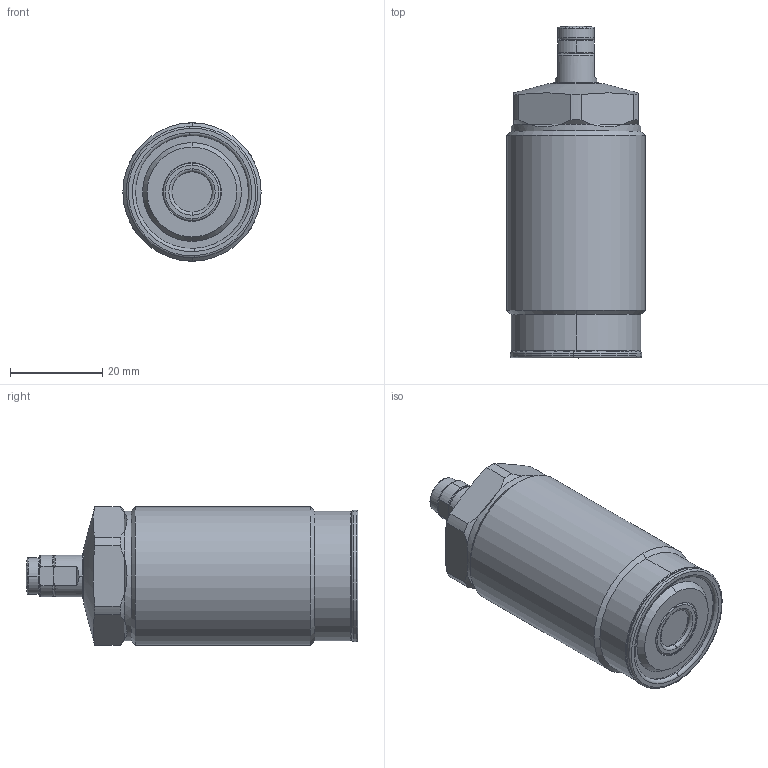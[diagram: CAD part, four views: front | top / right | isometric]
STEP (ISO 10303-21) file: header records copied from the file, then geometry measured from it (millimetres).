
FILE_DESCRIPTION(/* description */ (''),/* implementation_level */ '2;1');
FILE_NAME(/* name */ 'TNL30-M.stp',/* time_stamp */ '2025-01-09T10:26:32+08:00',/* author */ (''),/* organization */ (''),/* preprocessor_version */ 'ST-DEVELOPER v16.7',/* originating_system */ 'SIEMENS PLM Software NX 12.0',/* authorisation */ '');
FILE_SCHEMA (('AUTOMOTIVE_DESIGN { 1 0 10303 214 3 1 1 1 }'));
Length unit declared in the file: millimetre
Products named in the file (9): XLD-M6SP_pad952; XLD-M6SP_pin953; XLD-M6SP_contactbolt954; XLD-M6SP_Oring955; TNL30-05956; TNL30-02957; TNL30-01958; XLDM6SP959; TNL30-M_stp
Assembly tree (8 placements, depth 3):
  TNL30-M_stp
    TNL30-01958
    TNL30-02957
    TNL30-05956
    XLDM6SP959
      XLD-M6SP_Oring955
      XLD-M6SP_contactbolt954
      XLD-M6SP_pin953
      XLD-M6SP_pad952
Bounding box: 30 x 72 x 30 mm (x, y, z)
Volume: 40486.9 mm3; surface area: 8600.9 mm2
Topology: 7 solids, 7 shells, 181 faces, 404 edges, 243 vertices
Faces by surface type: cylinder 53, torus 44, plane 43, cone 37, sphere 4
Full cylindrical faces by diameter (mm): 28.2 x1, 30 x1
Entity records: 5721 total; most frequent: CARTESIAN_POINT 1409, DIRECTION 957, ORIENTED_EDGE 800, AXIS2_PLACEMENT_3D 421, EDGE_CURVE 400, VERTEX_POINT 243, CIRCLE 225, EDGE_LOOP 203
